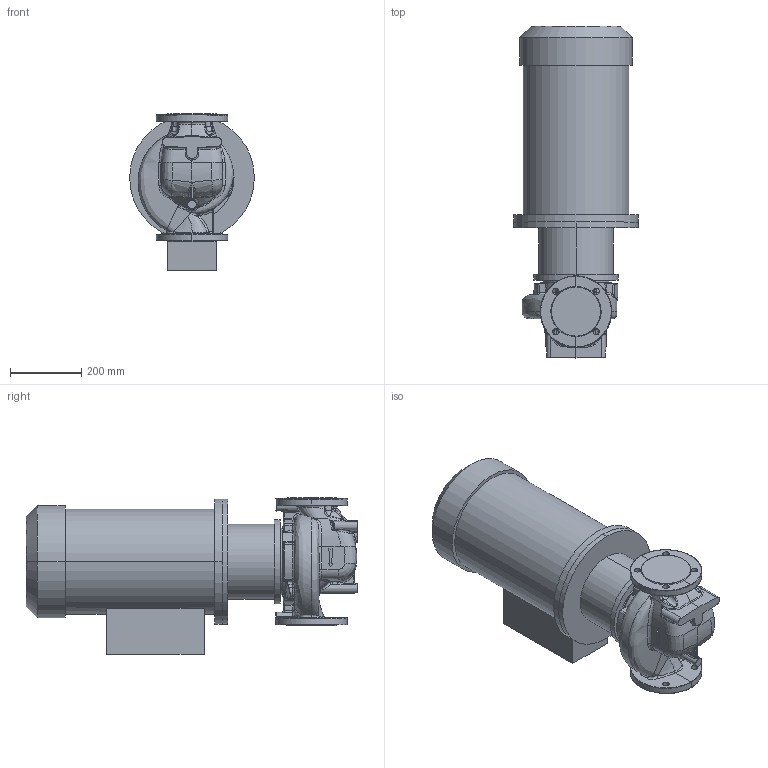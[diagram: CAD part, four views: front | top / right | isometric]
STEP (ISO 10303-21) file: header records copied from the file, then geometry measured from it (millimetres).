
FILE_DESCRIPTION (( 'STEP AP214' ), '1' );
FILE_NAME ('KRL 80-160-2-18,5.STEP', '2026-04-06T13:41:28', ( '' ), ( '' ), 'SwSTEP 2.0', 'SolidWorks 2016', '' );
FILE_SCHEMA (( 'AUTOMOTIVE_DESIGN' ));
Length unit declared in the file: millimetre
Products named in the file (1): KRL 80-160-2-18,5
Bounding box: 350 x 931.3 x 440 mm (x, y, z)
Volume: 60029419.8 mm3; surface area: 1671304.3 mm2
Topology: 4 solids, 5 shells, 589 faces, 1479 edges, 888 vertices
Faces by surface type: bspline 319, cylinder 115, plane 96, cone 31, torus 16, sphere 12
Entity records: 59938 total; most frequent: CARTESIAN_POINT 42340, ORIENTED_EDGE 2896, DIRECTION 1510, EDGE_CURVE 1448, VERTEX_POINT 888, B_SPLINE_CURVE_WITH_KNOTS 707, AXIS2_PLACEMENT_3D 641, EDGE_LOOP 624
